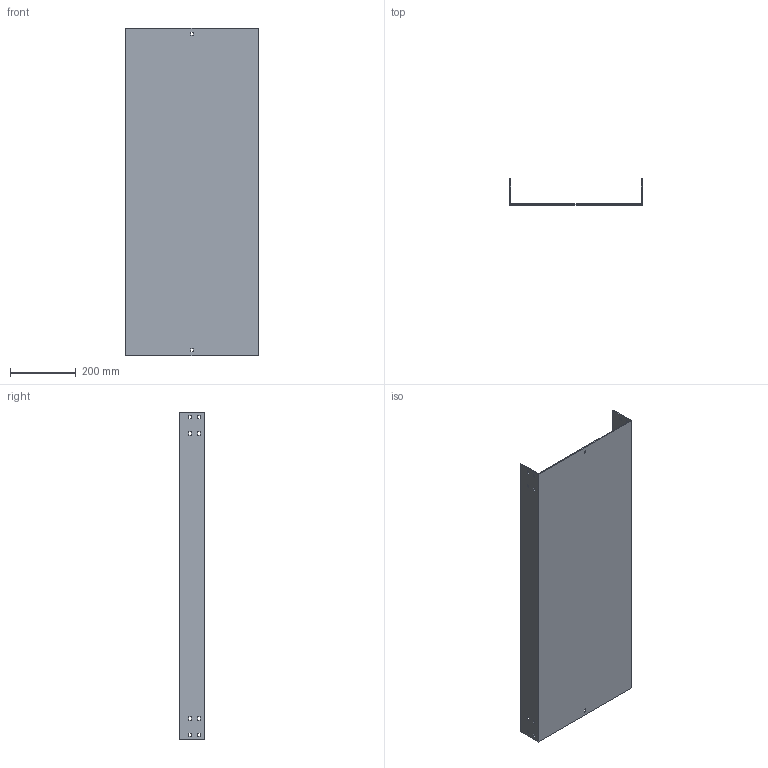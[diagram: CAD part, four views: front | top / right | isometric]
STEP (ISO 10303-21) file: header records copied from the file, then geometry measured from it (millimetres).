
FILE_DESCRIPTION (( 'STEP AP214' ), '1' );
FILE_NAME ('03F1C400.step', '2025-02-21T13:31:27', ( '' ), ( '' ), 'SwSTEP 2.0', 'SolidWorks 2023', '' );
FILE_SCHEMA (( 'AUTOMOTIVE_DESIGN' ));
Length unit declared in the file: millimetre
Products named in the file (1): 03F1C400
Bounding box: 404 x 79 x 1000 mm (x, y, z)
Volume: 1938170.5 mm3; surface area: 1120532 mm2
Topology: 1 solids, 1 shells, 82 faces, 240 edges, 160 vertices
Faces by surface type: plane 82
Entity records: 2759 total; most frequent: CARTESIAN_POINT 483, ORIENTED_EDGE 480, DIRECTION 406, VECTOR 240, EDGE_CURVE 240, LINE 240, VERTEX_POINT 160, EDGE_LOOP 118
